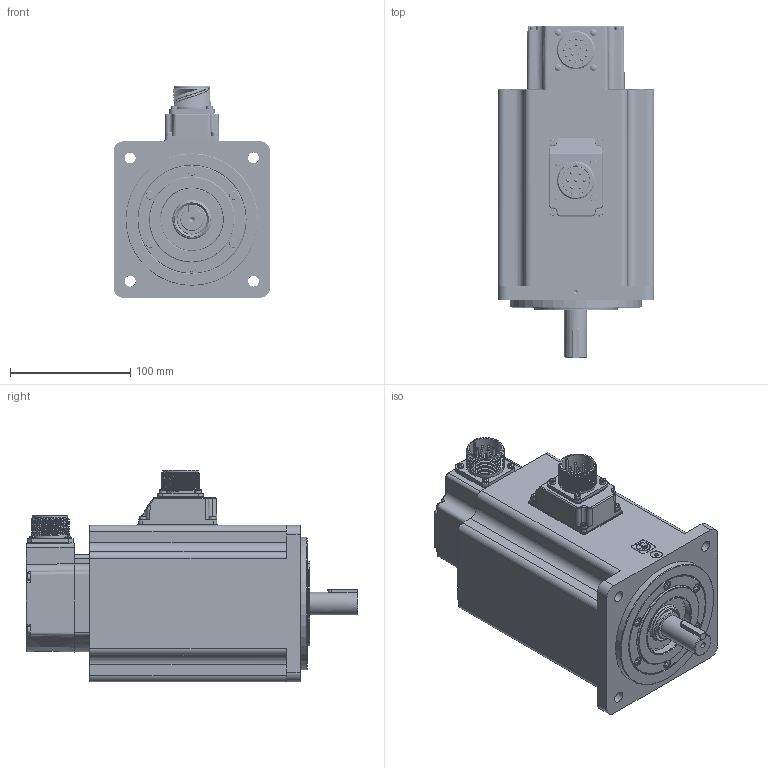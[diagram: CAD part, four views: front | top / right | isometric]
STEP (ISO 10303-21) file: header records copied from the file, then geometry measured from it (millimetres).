
FILE_DESCRIPTION( ( 'Unknown' ), '1' );
FILE_NAME( 'U:/05_Progetto TCE/010-TCE motor drawings/TCE130/Vuoti/TCE130 5D XX 3 A1 1 C3.stp', 'Unknown', ( 'Unknown' ), ( 'Unknown' ), 'PSStep 17.0.49', 'Unknown', ' ' );
FILE_SCHEMA( ( 'AUTOMOTIVE_DESIGN { 1 0 10303 214 1 1 1 1 }' ) );
Length unit declared in the file: millimetre
Products named in the file (14): 003103001510
Bounding box: 130.3 x 276 x 175.8 mm (x, y, z)
Volume: 1206295.3 mm3; surface area: 368380.3 mm2
Topology: 14 solids, 95 shells, 3015 faces, 7562 edges, 4912 vertices
Faces by surface type: plane 1578, cylinder 705, extrusion 233, cone 156, bspline 136, torus 135, sphere 72
Full cylindrical faces by diameter (mm): 2 x34, 2.224 x1, 2.4 x8, 2.459 x24, 2.5 x3, 2.6 x1, 2.8 x7, 2.9 x4, 3 x30, 3.048 x4, 3.2 x5, 3.242 x30, 3.5 x11, 3.6 x1, 3.7 x8, 3.8 x2, 4 x23, 4.134 x8, 4.5 x6, 4.7 x11, 4.917 x2, 5 x8, 5.1 x1, 5.5 x34, 5.6 x4, 5.8 x6, 7 x10, 8 x15, 8.5 x8, 10 x1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
Entity records: 127907 total; most frequent: CARTESIAN_POINT 42187, DIRECTION 12830, ORIENTED_EDGE 12806, EDGE_CURVE 6403, VERTEX_POINT 4537, AXIS2_PLACEMENT_3D 4476, EDGE_LOOP 4026, VECTOR 3878
